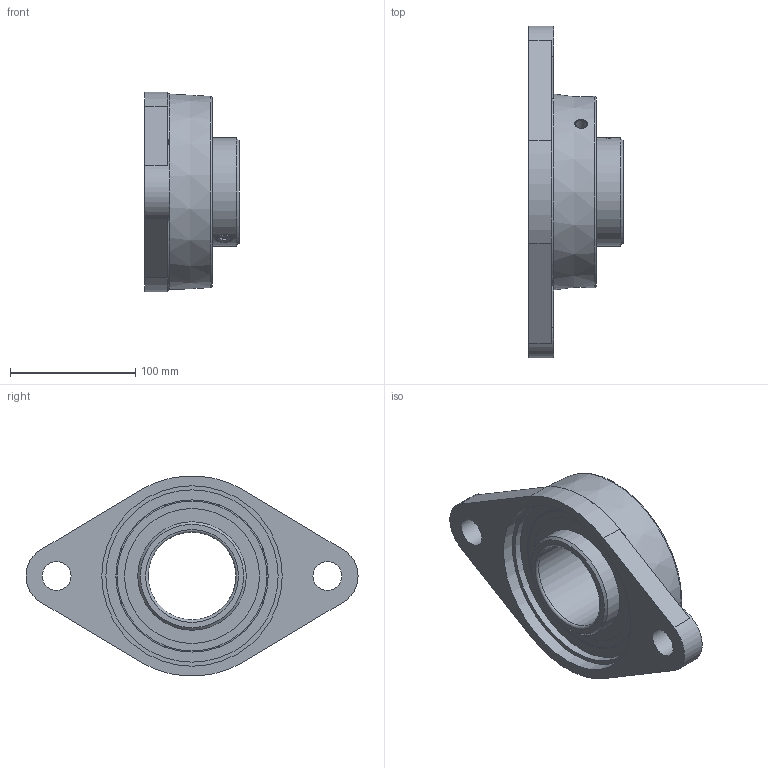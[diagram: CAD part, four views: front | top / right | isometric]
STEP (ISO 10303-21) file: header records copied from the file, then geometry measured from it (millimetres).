
FILE_DESCRIPTION (( 'STEP AP203' ), '1' );
FILE_NAME ('UCFL-214.STEP', '2019-03-08T12:11:53', ( '' ), ( '' ), 'SwSTEP 2.0', 'SolidWorks 2017', '' );
FILE_SCHEMA (( 'CONFIG_CONTROL_DESIGN' ));
Length unit declared in the file: millimetre
Products named in the file (1): UCFL-214
Bounding box: 75.4 x 265 x 159.52 mm (x, y, z)
Volume: 713631.4 mm3; surface area: 140642.4 mm2
Topology: 1 solids, 3 shells, 94 faces, 213 edges, 143 vertices
Faces by surface type: plane 43, cylinder 25, cone 10, torus 9, sphere 7
Full cylindrical faces by diameter (mm): 1.5 x4, 8.918 x1, 12 x2, 23 x2, 70 x1, 86.5 x4, 107.713 x2, 137.5 x2, 144 x1
Entity records: 3078 total; most frequent: CARTESIAN_POINT 1129, DIRECTION 388, ORIENTED_EDGE 312, AXIS2_PLACEMENT_3D 162, EDGE_LOOP 158, EDGE_CURVE 156, VERTEX_POINT 122, FACE_OUTER_BOUND 120
